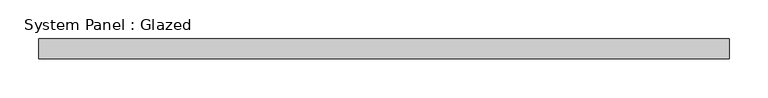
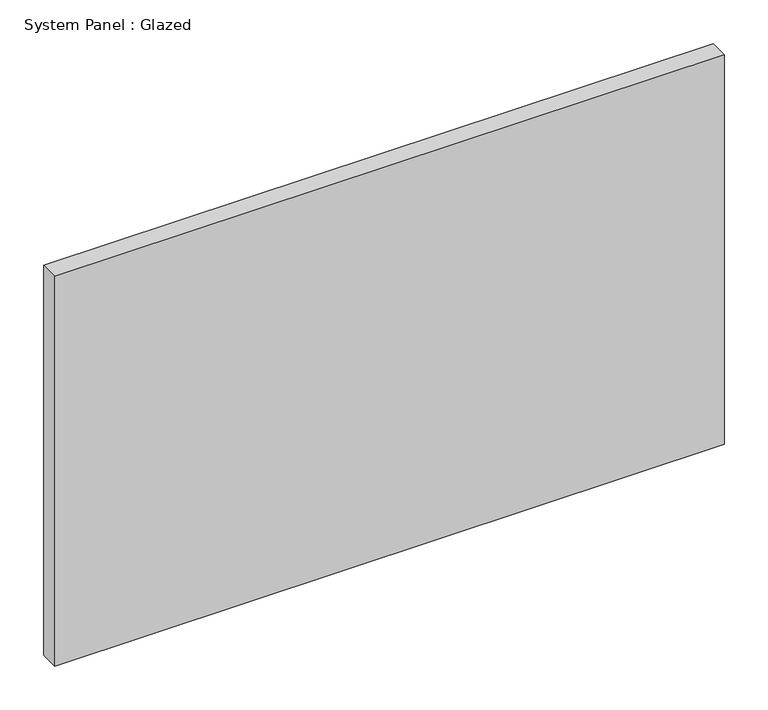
"""IFC4 building model written with IfcOpenShell, lengths in millimetres: plate geometry, System Panel : Glazed."""

from ifc_helpers import new_model, si_unit, origin, origin_with_axes, place, context, project, spatial, polyline, outline, extrude, source, transform, mapped, element, save


def system_panel_glazed_ef14c706(model_context):
    return source(origin(), model_context, "Body", "SweptSolid", [
        extrude(outline(polyline([(443.9708333, 19.05), (-443.9708333, 19.05), (-443.9708333, 44.45), (443.9708333, 44.45), (443.9708333, 19.05)])), origin_with_axes(), (0.0, 0.0, 1.0), 546.1),
    ])


if __name__ == "__main__":
    model = new_model("IFC4")
    model_context = context("Model", 3, world=origin())
    ifc_project = project(units=[si_unit("LENGTHUNIT", "METRE", prefix="MILLI")], contexts=[model_context])
    site = spatial("IfcSite", under=ifc_project)
    building = spatial("IfcBuilding", under=site)
    placement = place(None, origin())
    system_panel_glazed_shape = system_panel_glazed_ef14c706(model_context)
    element("IfcPlate", 1, ObjectType="System Panel : Glazed", at=placement, inside=building, context=model_context, shape_type="MappedRepresentation", body=[
        mapped(system_panel_glazed_shape, transform((0.0, 0.0, 0.0), x_axis=(1.0, 0.0, 0.0), y_axis=(0.0, 1.0, 0.0), z_axis=(0.0, 0.0, 1.0))),
    ])
    save(model, "model.ifc")
